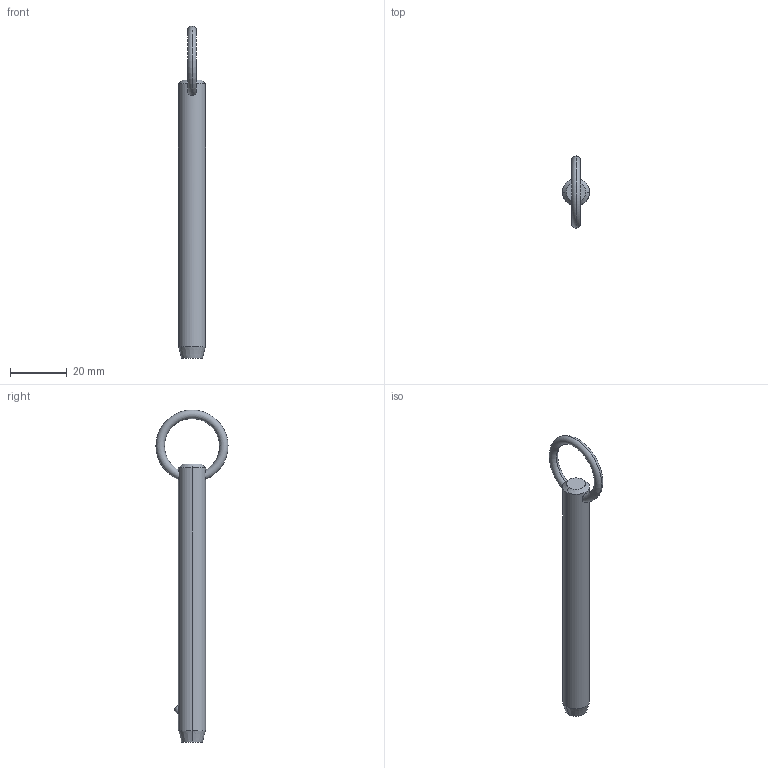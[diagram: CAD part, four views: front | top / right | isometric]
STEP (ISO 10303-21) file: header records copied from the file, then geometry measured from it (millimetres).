
FILE_DESCRIPTION (( 'STEP AP203' ), '1' );
FILE_NAME ('P1250.037-310.step', '2019-07-29T20:04:02', ( '' ), ( '' ), 'SwSTEP 2.0', 'SolidWorks 2017', '' );
FILE_SCHEMA (( 'CONFIG_CONTROL_DESIGN' ));
Length unit declared in the file: millimetre
Products named in the file (1): P1250.037-310
Bounding box: 9.52 x 25.39 x 116.9 mm (x, y, z)
Volume: 7316.2 mm3; surface area: 3568.7 mm2
Topology: 1 solids, 1 shells, 12 faces, 28 edges, 17 vertices
Faces by surface type: cone 4, torus 2, sphere 2, cylinder 2, plane 2
Entity records: 523 total; most frequent: CARTESIAN_POINT 190, DIRECTION 56, ORIENTED_EDGE 48, AXIS2_PLACEMENT_3D 25, EDGE_CURVE 24, VERTEX_POINT 15, EDGE_LOOP 15, ADVANCED_FACE 12
